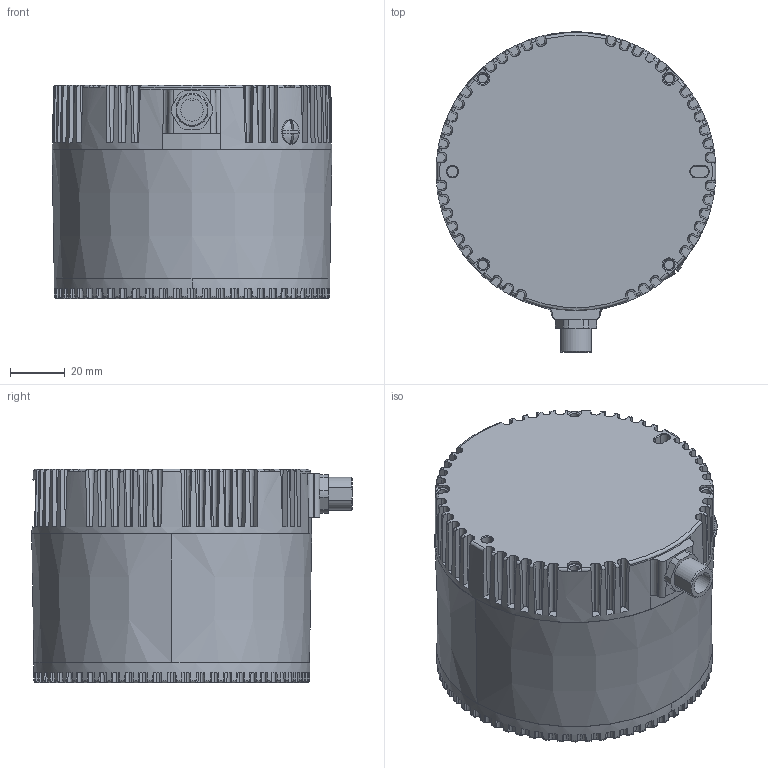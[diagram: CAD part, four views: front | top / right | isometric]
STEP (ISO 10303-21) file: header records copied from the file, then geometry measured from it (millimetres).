
FILE_DESCRIPTION((''),'2;1');
FILE_NAME('C32-APPEARANCE','2022-10-11T20:09:47',('huachen'),('Globeunion.com'),'CREO PARAMETRIC BY PTC INC, 2016510','CREO PARAMETRIC BY PTC INC, 2016510','');
FILE_SCHEMA(('AUTOMOTIVE_DESIGN { 1 0 10303 214 1 1 1 1 }'));
Length unit declared in the file: millimetre
Products named in the file (1): C32-APPEARANCE
Bounding box: 102 x 116.8 x 77.85 mm (x, y, z)
Surface area: 49288.6 mm2 (no closed solid volume)
Topology: 0 solids, 6 shells, 893 faces, 2602 edges, 1734 vertices
Faces by surface type: plane 379, cone 326, torus 110, cylinder 72, sphere 4, bspline 2
Entity records: 31471 total; most frequent: CARTESIAN_POINT 7825, ORIENTED_EDGE 5180, DIRECTION 4921, EDGE_CURVE 2602, AXIS2_PLACEMENT_3D 2005, VERTEX_POINT 1734, CIRCLE 1114, EDGE_LOOP 919
